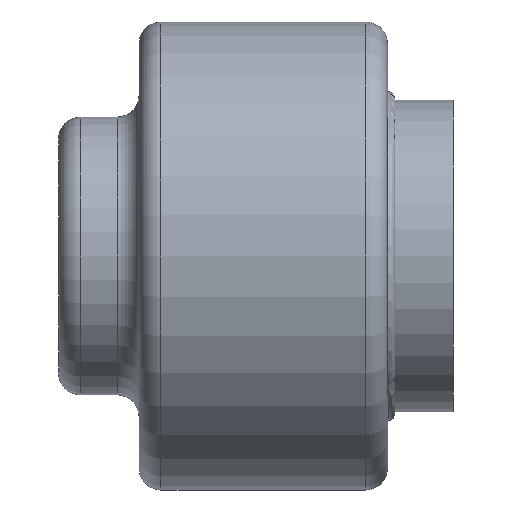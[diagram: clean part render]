
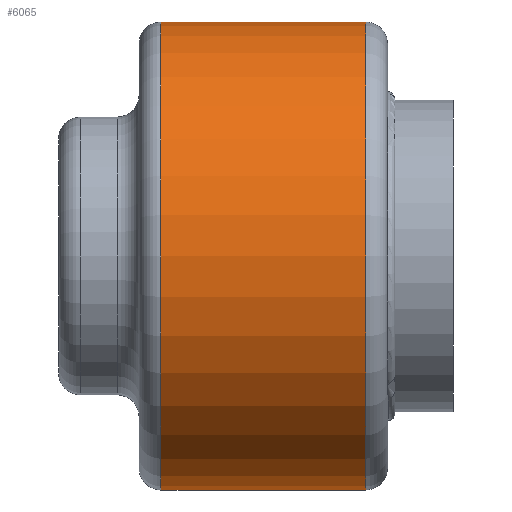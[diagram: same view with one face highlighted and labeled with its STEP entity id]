
A CAD part, left-side view. The second image highlights one B-rep face of the part: STEP entity #6065.
In plain terms, the highlighted cylindrical face has radius 32 mm (diameter 64 mm), a full revolution.
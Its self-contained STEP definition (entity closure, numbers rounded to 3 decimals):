
#665 = CARTESIAN_POINT ( 'NONE',  ( 0., 23.509, 0. ) ) ;
#754 = CIRCLE ( 'NONE', #856, 32. ) ;
#849 = DIRECTION ( 'NONE',  ( 0., -1., 0. ) ) ;
#856 = AXIS2_PLACEMENT_3D ( 'NONE', #5717, #849, #6860 ) ;
#1200 = CYLINDRICAL_SURFACE ( 'NONE', #4517, 32. ) ;
#1587 = EDGE_CURVE ( 'NONE', #1747, #1747, #754, .T. ) ;
#1747 = VERTEX_POINT ( 'NONE', #6081 ) ;
#2206 = DIRECTION ( 'NONE',  ( 0., 1., 0. ) ) ;
#2810 = DIRECTION ( 'NONE',  ( 0., 1., 0. ) ) ;
#3375 = DIRECTION ( 'NONE',  ( 0., 0., 1. ) ) ;
#3464 = ORIENTED_EDGE ( 'NONE', *, *, #4860, .T. ) ;
#3559 = ORIENTED_EDGE ( 'NONE', *, *, #1587, .T. ) ;
#4164 = CIRCLE ( 'NONE', #4395, 32. ) ;
#4165 = EDGE_LOOP ( 'NONE', ( #3464 ) ) ;
#4368 = DIRECTION ( 'NONE',  ( 0., 0., 1. ) ) ;
#4395 = AXIS2_PLACEMENT_3D ( 'NONE', #6068, #2206, #4368 ) ;
#4517 = AXIS2_PLACEMENT_3D ( 'NONE', #665, #2810, #3375 ) ;
#4770 = EDGE_LOOP ( 'NONE', ( #3559 ) ) ;
#4860 = EDGE_CURVE ( 'NONE', #6824, #6824, #4164, .T. ) ;
#5084 = FACE_OUTER_BOUND ( 'NONE', #4770, .T. ) ;
#5123 = CARTESIAN_POINT ( 'NONE',  ( 0., -21.404, 32. ) ) ;
#5717 = CARTESIAN_POINT ( 'NONE',  ( 0., 6.596, 0. ) ) ;
#6065 = ADVANCED_FACE ( 'NONE', ( #6145, #5084 ), #1200, .T. ) ;
#6068 = CARTESIAN_POINT ( 'NONE',  ( 0., -21.404, 0. ) ) ;
#6081 = CARTESIAN_POINT ( 'NONE',  ( 0., 6.596, -32. ) ) ;
#6145 = FACE_OUTER_BOUND ( 'NONE', #4165, .T. ) ;
#6824 = VERTEX_POINT ( 'NONE', #5123 ) ;
#6860 = DIRECTION ( 'NONE',  ( 0., 0., -1. ) ) ;
